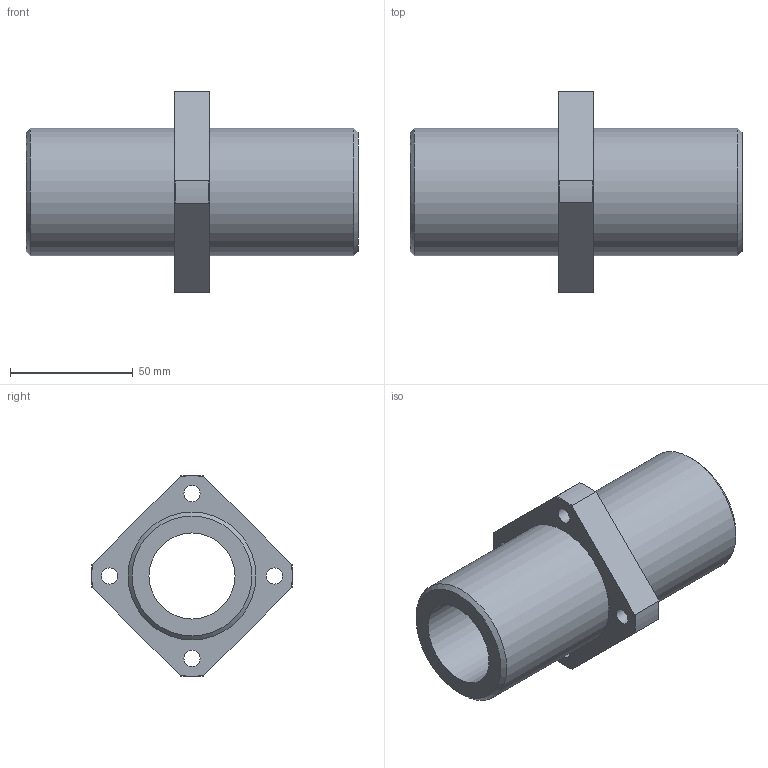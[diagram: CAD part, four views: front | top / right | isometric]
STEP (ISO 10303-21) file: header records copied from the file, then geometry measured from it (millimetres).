
FILE_DESCRIPTION(('STEP AP203'),'1');
FILE_NAME('//192.168.1.1/share/s-4 技術開発/s-4-4_CAD/s-4-4-3_見直し済み/PBC LINEAR修正済み/CFPJ/CFPJ_TOP/CFPJ/CFPJ35.step','2022-03-24T03:59:06',(' '),(' '),'Spatial InterOp 3D',' ',' ');
FILE_SCHEMA(('CONFIG_CONTROL_DESIGN'));
Length unit declared in the file: millimetre
Products named in the file (1): 1
Bounding box: 135 x 81.94 x 81.94 mm (x, y, z)
Volume: 179538.9 mm3; surface area: 44995.1 mm2
Topology: 1 solids, 1 shells, 37 faces, 92 edges, 63 vertices
Faces by surface type: cylinder 15, plane 12, cone 10
Full cylindrical faces by diameter (mm): 6.6 x4, 11 x4, 35 x1, 52 x2
Entity records: 1078 total; most frequent: CARTESIAN_POINT 214, DIRECTION 172, ORIENTED_EDGE 144, AXIS2_PLACEMENT_3D 78, EDGE_CURVE 72, EDGE_LOOP 66, VERTEX_POINT 56, FACE_OUTER_BOUND 48
